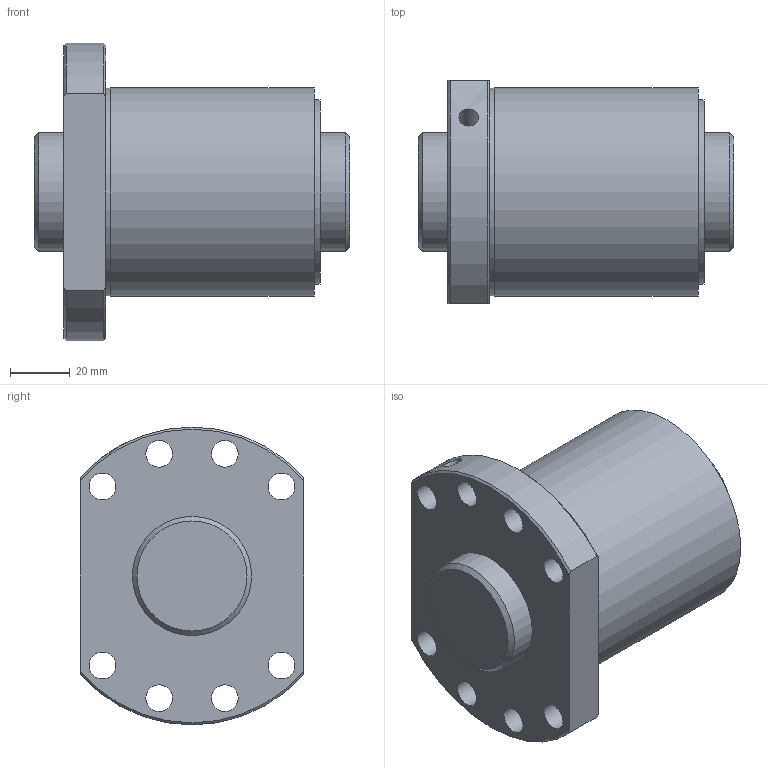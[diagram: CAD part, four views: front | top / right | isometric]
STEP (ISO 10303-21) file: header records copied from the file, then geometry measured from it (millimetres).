
FILE_DESCRIPTION(/* description */ ('STEP AP203'),/* implementation_level */ '2;1');
FILE_NAME(/* name */ 'SDA4040VA-2G0+106LC0(0G000)',/* time_stamp */ '2024-05-28T11:43:47+02:00',/* author */ ('License CC BY-ND 4.0'),/* organization */ ('CADENAS'),/* preprocessor_version */ 'ST-DEVELOPER v19.3',/* originating_system */ 'PARTsolutions',/* authorisation */ ' ');
FILE_SCHEMA (('CONFIG_CONTROL_DESIGN'));
Length unit declared in the file: millimetre
Products named in the file (3): SDA4040VA-2G0+106LC0(0G000); 000SDA4040VA-20Shaft; SDA-V serieSDA4040VA-2nut
Assembly tree (2 placements, depth 2):
  SDA4040VA-2G0+106LC0(0G000)
    000SDA4040VA-20Shaft
    SDA-V serieSDA4040VA-2nut
Bounding box: 106 x 75 x 100 mm (x, y, z)
Volume: 386185.5 mm3; surface area: 59978.7 mm2
Topology: 2 solids, 2 shells, 33 faces, 75 edges, 49 vertices
Faces by surface type: cylinder 17, plane 9, cone 7
Full cylindrical faces by diameter (mm): 5.2 x1, 6.647 x1, 9 x8, 40 x2, 62 x1, 69.6 x1, 70 x1
Entity records: 983 total; most frequent: CARTESIAN_POINT 184, DIRECTION 156, ORIENTED_EDGE 112, EDGE_LOOP 74, FACE_BOUND 74, AXIS2_PLACEMENT_3D 74, EDGE_CURVE 56, VERTEX_POINT 48
